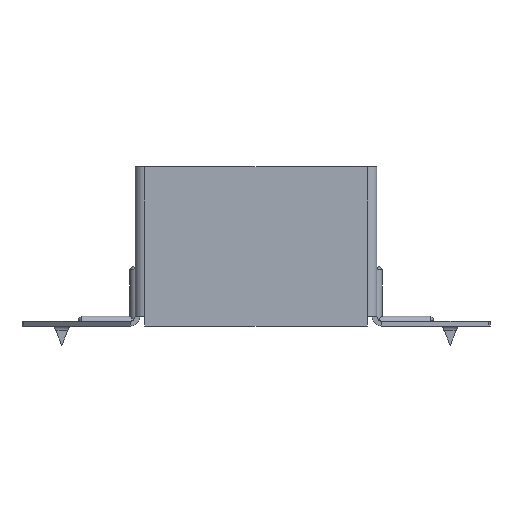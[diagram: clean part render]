
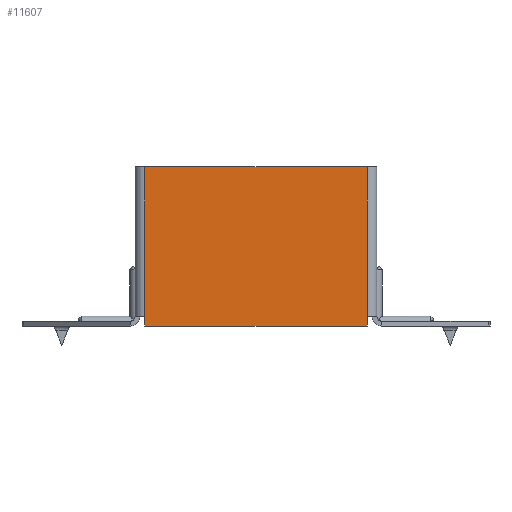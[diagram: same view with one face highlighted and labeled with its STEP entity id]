
A CAD part, front view. The second image highlights one B-rep face of the part: STEP entity #11607.
In plain terms, the highlighted planar face has unit normal (0, -1, 0).
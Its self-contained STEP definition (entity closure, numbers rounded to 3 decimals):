
#47 = DIRECTION ( 'NONE',  ( -1., 0., 0. ) ) ;
#204 = LINE ( 'NONE', #316, #15501 ) ;
#313 = VECTOR ( 'NONE', #15794, 1000. ) ;
#316 = CARTESIAN_POINT ( 'NONE',  ( 0., 0., -20. ) ) ;
#563 = EDGE_CURVE ( 'NONE', #15081, #15164, #3204, .T. ) ;
#579 = VECTOR ( 'NONE', #7466, 1000. ) ;
#585 = VERTEX_POINT ( 'NONE', #12277 ) ;
#698 = DIRECTION ( 'NONE',  ( 0., 0., 1. ) ) ;
#721 = CARTESIAN_POINT ( 'NONE',  ( 35., 0., -67. ) ) ;
#841 = CARTESIAN_POINT ( 'NONE',  ( -35., 0., -67. ) ) ;
#870 = FACE_OUTER_BOUND ( 'NONE', #5919, .T. ) ;
#1517 = ORIENTED_EDGE ( 'NONE', *, *, #563, .F. ) ;
#1914 = AXIS2_PLACEMENT_3D ( 'NONE', #13411, #13364, #8491 ) ;
#2079 = DIRECTION ( 'NONE',  ( 0., 0., 1. ) ) ;
#2147 = CARTESIAN_POINT ( 'NONE',  ( -35., 0., 0. ) ) ;
#2399 = PLANE ( 'NONE',  #1914 ) ;
#3204 = LINE ( 'NONE', #9754, #3585 ) ;
#3296 = EDGE_CURVE ( 'NONE', #11495, #6280, #11374, .T. ) ;
#3585 = VECTOR ( 'NONE', #47, 1000. ) ;
#3742 = EDGE_CURVE ( 'NONE', #5275, #585, #9084, .T. ) ;
#4015 = CARTESIAN_POINT ( 'NONE',  ( -35., 0., -70. ) ) ;
#5153 = CARTESIAN_POINT ( 'NONE',  ( 35., 0., -70. ) ) ;
#5275 = VERTEX_POINT ( 'NONE', #721 ) ;
#5636 = ORIENTED_EDGE ( 'NONE', *, *, #9952, .T. ) ;
#5919 = EDGE_LOOP ( 'NONE', ( #7663, #6857, #6748, #1517, #5636, #12237 ) ) ;
#6280 = VERTEX_POINT ( 'NONE', #841 ) ;
#6748 = ORIENTED_EDGE ( 'NONE', *, *, #15084, .T. ) ;
#6857 = ORIENTED_EDGE ( 'NONE', *, *, #3296, .T. ) ;
#6943 = CARTESIAN_POINT ( 'NONE',  ( 35., 0., -70. ) ) ;
#7466 = DIRECTION ( 'NONE',  ( 0., 0., -1. ) ) ;
#7663 = ORIENTED_EDGE ( 'NONE', *, *, #9509, .T. ) ;
#8300 = VECTOR ( 'NONE', #698, 1000. ) ;
#8397 = VECTOR ( 'NONE', #2079, 1000. ) ;
#8491 = DIRECTION ( 'NONE',  ( 0., 0., 1. ) ) ;
#9084 = LINE ( 'NONE', #11679, #8300 ) ;
#9509 = EDGE_CURVE ( 'NONE', #585, #11495, #204, .T. ) ;
#9754 = CARTESIAN_POINT ( 'NONE',  ( -36.5, 0., -70. ) ) ;
#9952 = EDGE_CURVE ( 'NONE', #15081, #5275, #14530, .T. ) ;
#10723 = CARTESIAN_POINT ( 'NONE',  ( -35., 0., -20. ) ) ;
#11374 = LINE ( 'NONE', #2147, #313 ) ;
#11495 = VERTEX_POINT ( 'NONE', #10723 ) ;
#11607 = ADVANCED_FACE ( 'NONE', ( #870 ), #2399, .F. ) ;
#11679 = CARTESIAN_POINT ( 'NONE',  ( 35., 0., -70. ) ) ;
#12237 = ORIENTED_EDGE ( 'NONE', *, *, #3742, .T. ) ;
#12277 = CARTESIAN_POINT ( 'NONE',  ( 35., 0., -20. ) ) ;
#12402 = CARTESIAN_POINT ( 'NONE',  ( -35., 0., 0. ) ) ;
#13364 = DIRECTION ( 'NONE',  ( 0., 1., 0. ) ) ;
#13411 = CARTESIAN_POINT ( 'NONE',  ( 0., 0., 0. ) ) ;
#13725 = DIRECTION ( 'NONE',  ( -1., 0., 0. ) ) ;
#14376 = LINE ( 'NONE', #12402, #579 ) ;
#14530 = LINE ( 'NONE', #6943, #8397 ) ;
#15081 = VERTEX_POINT ( 'NONE', #5153 ) ;
#15084 = EDGE_CURVE ( 'NONE', #6280, #15164, #14376, .T. ) ;
#15164 = VERTEX_POINT ( 'NONE', #4015 ) ;
#15501 = VECTOR ( 'NONE', #13725, 1000. ) ;
#15794 = DIRECTION ( 'NONE',  ( 0., 0., -1. ) ) ;
